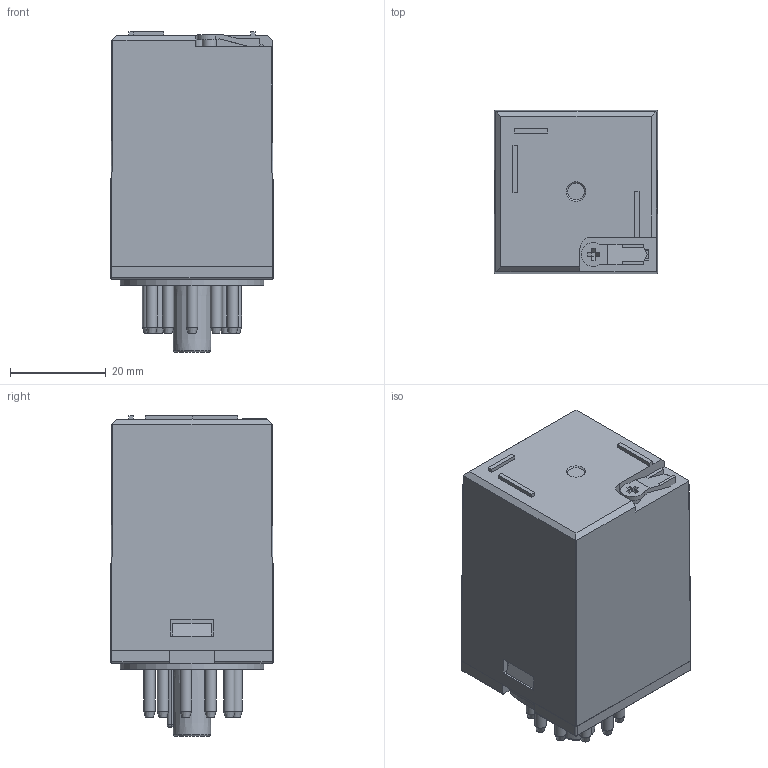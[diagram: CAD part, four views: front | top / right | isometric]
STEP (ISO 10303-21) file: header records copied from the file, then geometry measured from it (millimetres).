
FILE_DESCRIPTION(/* description */ (''),/* implementation_level */ '2;1');
FILE_NAME(/* name */ '10ft-3p.stp',/* time_stamp */ '2024-07-05T14:14:50+08:00',/* author */ (''),/* organization */ (''),/* preprocessor_version */ 'ST-DEVELOPER v11',/* originating_system */ 'SIEMENS UGS NX 6.0',/* authorisation */ '');
FILE_SCHEMA (('CONFIG_CONTROL_DESIGN'));
Length unit declared in the file: millimetre
Products named in the file (1): 10ft-3p
Bounding box: 34 x 34 x 66.9 mm (x, y, z)
Volume: 15057.4 mm3; surface area: 20890.8 mm2
Topology: 14 solids, 14 shells, 466 faces, 1147 edges, 737 vertices
Faces by surface type: plane 349, cylinder 86, cone 24, sphere 5, bspline 1, torus 1
Full cylindrical faces by diameter (mm): 2.35 x11, 2.4 x11, 2.5 x11, 3 x1, 3.2 x11, 30 x1
Entity records: 13214 total; most frequent: CARTESIAN_POINT 2356, DIRECTION 2191, ORIENTED_EDGE 2118, EDGE_CURVE 1059, LINE 807, VECTOR 807, VERTEX_POINT 713, AXIS2_PLACEMENT_3D 692
